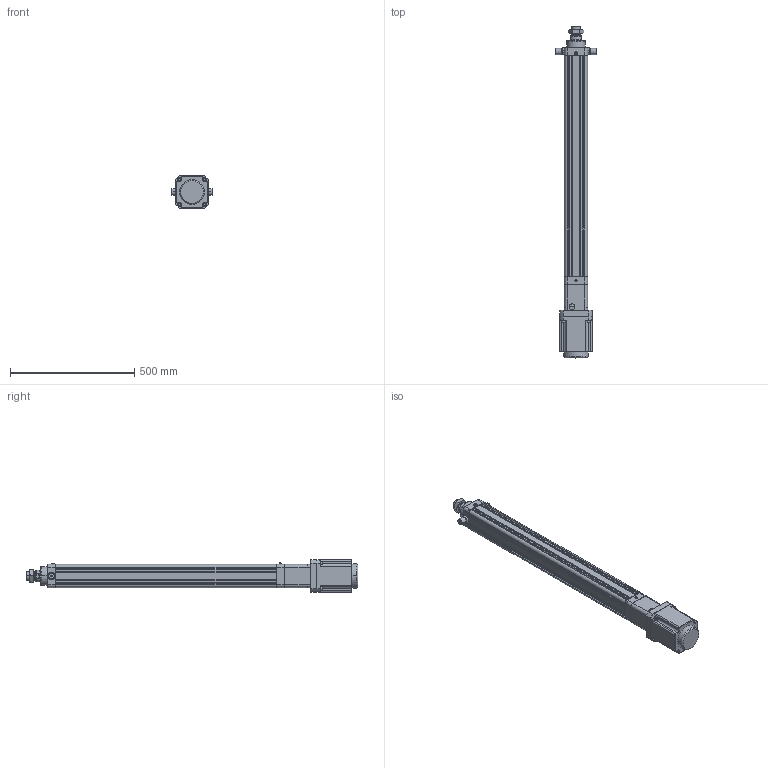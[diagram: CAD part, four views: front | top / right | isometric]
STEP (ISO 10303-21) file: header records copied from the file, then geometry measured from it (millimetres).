
FILE_DESCRIPTION((''),'2;1');
FILE_NAME('HE80-D-P_ASM','2020-05-13T',('ASUS20200'),(''),'CREO PARAMETRIC BY PTC INC, 2014190','CREO PARAMETRIC BY PTC INC, 2014190','');
FILE_SCHEMA(('CONFIG_CONTROL_DESIGN'));
Length unit declared in the file: millimetre
Products named in the file (23): HE80-D-P-001-X1; HE80-D-P-002-X1; HE80-D-P-003-X1; 30304J; YZ-M6X1; SLM-01; JDB506030; HE80-100-D-P-X1_ASM; HE80-D-009-X1; HE80-D-010-X1-130N; M10X110; SKT-20; M8X20; 130ST-M10010; JX6X6X40; TD-8; M8X40; HE80-D-P-005-X1; HE80-D-P-004-X1; HE80-D-P-008-X1; LGLM-M10-25; HE80-TC; HE80-D-P_ASM
Assembly tree (40 placements, depth 3):
  HE80-D-P_ASM
    HE80-100-D-P-X1_ASM
      HE80-D-P-001-X1
      HE80-D-P-002-X1
      HE80-D-P-003-X1
      30304J  x2
      YZ-M6X1
      SLM-01
      JDB506030
    HE80-D-009-X1
    HE80-D-010-X1-130N
    M10X110  x4
    SKT-20  x2
    M8X20  x4
    130ST-M10010
    JX6X6X40
    TD-8  x4
    M8X40  x4
    HE80-D-P-005-X1
    HE80-D-P-004-X1
    HE80-D-P-008-X1
    LGLM-M10-25  x4
    HE80-TC  x2
Bounding box: 163 x 1336 x 130.01 mm (x, y, z)
Volume: 6170133.9 mm3; surface area: 1496848.9 mm2
Topology: 39 solids, 64 shells, 1956 faces, 4553 edges, 2742 vertices
Faces by surface type: plane 705, cylinder 565, cone 558, torus 94, sphere 30, bspline 4
Entity records: 45066 total; most frequent: CARTESIAN_POINT 9050, DIRECTION 7874, ORIENTED_EDGE 6984, EDGE_CURVE 3545, AXIS2_PLACEMENT_3D 3028, VERTEX_POINT 2145, VECTOR 1818, LINE 1818
